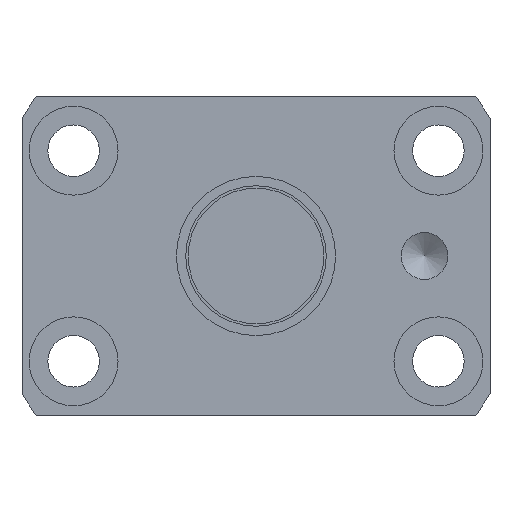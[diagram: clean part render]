
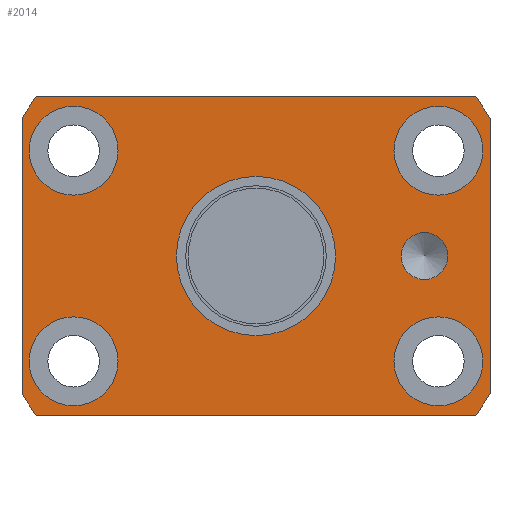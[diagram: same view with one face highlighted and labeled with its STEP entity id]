
A CAD part, left-side view. The second image highlights one B-rep face of the part: STEP entity #2014.
In plain terms, the highlighted planar face has unit normal (-1, 0, 0).
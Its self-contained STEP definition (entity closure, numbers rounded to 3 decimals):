
#40 = DIRECTION ( 'NONE',  ( 0., 0., 1. ) ) ;
#59 = DIRECTION ( 'NONE',  ( 0., 0., 1. ) ) ;
#60 = VERTEX_POINT ( 'NONE', #202 ) ;
#97 = LINE ( 'NONE', #3201, #497 ) ;
#127 = CARTESIAN_POINT ( 'NONE',  ( 0., 0., 0. ) ) ;
#133 = CARTESIAN_POINT ( 'NONE',  ( 0., -18., 2.5 ) ) ;
#143 = AXIS2_PLACEMENT_3D ( 'NONE', #592, #608, #2339 ) ;
#151 = VECTOR ( 'NONE', #2409, 1000. ) ;
#158 = FACE_OUTER_BOUND ( 'NONE', #1655, .T. ) ;
#162 = CARTESIAN_POINT ( 'NONE',  ( 0., 0., 0. ) ) ;
#197 = VERTEX_POINT ( 'NONE', #2906 ) ;
#202 = CARTESIAN_POINT ( 'NONE',  ( 0., 25., -14.697 ) ) ;
#208 = DIRECTION ( 'NONE',  ( -1., 0., 0. ) ) ;
#216 = DIRECTION ( 'NONE',  ( 1., 0., 0. ) ) ;
#221 = ORIENTED_EDGE ( 'NONE', *, *, #1532, .T. ) ;
#239 = DIRECTION ( 'NONE',  ( 0., 1., 0. ) ) ;
#242 = AXIS2_PLACEMENT_3D ( 'NONE', #2863, #595, #1051 ) ;
#282 = CARTESIAN_POINT ( 'NONE',  ( 0., -14.736, -11.25 ) ) ;
#292 = EDGE_CURVE ( 'NONE', #1288, #60, #2453, .T. ) ;
#304 = EDGE_CURVE ( 'NONE', #1771, #1771, #2123, .T. ) ;
#385 = CARTESIAN_POINT ( 'NONE',  ( 0., -25., -14.697 ) ) ;
#446 = AXIS2_PLACEMENT_3D ( 'NONE', #2274, #2562, #735 ) ;
#468 = DIRECTION ( 'NONE',  ( 1., 0., 0. ) ) ;
#489 = EDGE_LOOP ( 'NONE', ( #490 ) ) ;
#490 = ORIENTED_EDGE ( 'NONE', *, *, #2217, .F. ) ;
#494 = AXIS2_PLACEMENT_3D ( 'NONE', #3245, #216, #1177 ) ;
#497 = VECTOR ( 'NONE', #40, 1000. ) ;
#533 = CARTESIAN_POINT ( 'NONE',  ( 0., 23.495, 17. ) ) ;
#592 = CARTESIAN_POINT ( 'NONE',  ( 0., 19.486, 11.25 ) ) ;
#595 = DIRECTION ( 'NONE',  ( 1., 0., 0. ) ) ;
#608 = DIRECTION ( 'NONE',  ( 1., 0., 0. ) ) ;
#641 = DIRECTION ( 'NONE',  ( 0., 1., 0. ) ) ;
#647 = VERTEX_POINT ( 'NONE', #385 ) ;
#688 = FACE_BOUND ( 'NONE', #3200, .T. ) ;
#702 = CARTESIAN_POINT ( 'NONE',  ( 0., 0., 0. ) ) ;
#704 = FACE_BOUND ( 'NONE', #2756, .T. ) ;
#735 = DIRECTION ( 'NONE',  ( 0., 1., 0. ) ) ;
#797 = CARTESIAN_POINT ( 'NONE',  ( 0., 8.5, 0. ) ) ;
#798 = EDGE_CURVE ( 'NONE', #2342, #2342, #2061, .T. ) ;
#819 = LINE ( 'NONE', #2891, #2331 ) ;
#828 = CARTESIAN_POINT ( 'NONE',  ( 0., 25., 14.697 ) ) ;
#849 = ORIENTED_EDGE ( 'NONE', *, *, #798, .T. ) ;
#931 = AXIS2_PLACEMENT_3D ( 'NONE', #702, #468, #239 ) ;
#938 = ORIENTED_EDGE ( 'NONE', *, *, #2977, .F. ) ;
#941 = EDGE_CURVE ( 'NONE', #2644, #3183, #2931, .T. ) ;
#1031 = AXIS2_PLACEMENT_3D ( 'NONE', #1250, #3312, #2996 ) ;
#1033 = EDGE_CURVE ( 'NONE', #3070, #3070, #3212, .T. ) ;
#1051 = DIRECTION ( 'NONE',  ( 0., 1., 0. ) ) ;
#1065 = VERTEX_POINT ( 'NONE', #2304 ) ;
#1107 = DIRECTION ( 'NONE',  ( -1., 0., 0. ) ) ;
#1129 = DIRECTION ( 'NONE',  ( 1., 0., 0. ) ) ;
#1140 = CIRCLE ( 'NONE', #143, 4.75 ) ;
#1154 = EDGE_CURVE ( 'NONE', #3014, #647, #1784, .T. ) ;
#1177 = DIRECTION ( 'NONE',  ( 0., 1., 0. ) ) ;
#1215 = DIRECTION ( 'NONE',  ( 0., 0., 1. ) ) ;
#1244 = CIRCLE ( 'NONE', #3034, 2.5 ) ;
#1250 = CARTESIAN_POINT ( 'NONE',  ( 0., -19.486, 11.25 ) ) ;
#1272 = EDGE_LOOP ( 'NONE', ( #2800 ) ) ;
#1288 = VERTEX_POINT ( 'NONE', #3334 ) ;
#1321 = DIRECTION ( 'NONE',  ( 0., 1., 0. ) ) ;
#1337 = CARTESIAN_POINT ( 'NONE',  ( 0., -14.736, 11.25 ) ) ;
#1349 = ORIENTED_EDGE ( 'NONE', *, *, #3225, .F. ) ;
#1378 = CARTESIAN_POINT ( 'NONE',  ( 0., -25., 14.697 ) ) ;
#1418 = EDGE_LOOP ( 'NONE', ( #2077 ) ) ;
#1471 = DIRECTION ( 'NONE',  ( 1., 0., 0. ) ) ;
#1519 = CARTESIAN_POINT ( 'NONE',  ( 0., 24.236, -11.25 ) ) ;
#1532 = EDGE_CURVE ( 'NONE', #1065, #1065, #1140, .T. ) ;
#1535 = EDGE_CURVE ( 'NONE', #60, #2644, #97, .T. ) ;
#1553 = LINE ( 'NONE', #533, #151 ) ;
#1589 = ORIENTED_EDGE ( 'NONE', *, *, #941, .F. ) ;
#1655 = EDGE_LOOP ( 'NONE', ( #1763, #938, #2557, #1349, #2368, #1589, #1856, #1973 ) ) ;
#1671 = DIRECTION ( 'NONE',  ( 0., 1., 0. ) ) ;
#1689 = CIRCLE ( 'NONE', #931, 29. ) ;
#1743 = FACE_BOUND ( 'NONE', #1418, .T. ) ;
#1763 = ORIENTED_EDGE ( 'NONE', *, *, #2303, .F. ) ;
#1771 = VERTEX_POINT ( 'NONE', #282 ) ;
#1784 = LINE ( 'NONE', #2059, #3255 ) ;
#1856 = ORIENTED_EDGE ( 'NONE', *, *, #1535, .F. ) ;
#1869 = CARTESIAN_POINT ( 'NONE',  ( 0., -18., 0. ) ) ;
#1883 = VERTEX_POINT ( 'NONE', #1337 ) ;
#1903 = AXIS2_PLACEMENT_3D ( 'NONE', #2310, #1471, #3336 ) ;
#1928 = VERTEX_POINT ( 'NONE', #2238 ) ;
#1931 = VERTEX_POINT ( 'NONE', #133 ) ;
#1951 = FACE_BOUND ( 'NONE', #3248, .T. ) ;
#1952 = CIRCLE ( 'NONE', #242, 29. ) ;
#1973 = ORIENTED_EDGE ( 'NONE', *, *, #292, .F. ) ;
#2014 = ADVANCED_FACE ( 'NONE', ( #2459, #3268, #704, #1743, #1951, #158, #688 ), #2497, .T. ) ;
#2059 = CARTESIAN_POINT ( 'NONE',  ( 0., -25., 14.697 ) ) ;
#2061 = CIRCLE ( 'NONE', #2865, 8.5 ) ;
#2077 = ORIENTED_EDGE ( 'NONE', *, *, #304, .T. ) ;
#2123 = CIRCLE ( 'NONE', #446, 4.75 ) ;
#2177 = AXIS2_PLACEMENT_3D ( 'NONE', #127, #1129, #1671 ) ;
#2192 = CIRCLE ( 'NONE', #1031, 4.75 ) ;
#2217 = EDGE_CURVE ( 'NONE', #1931, #1931, #1244, .T. ) ;
#2238 = CARTESIAN_POINT ( 'NONE',  ( 0., -23.495, -17. ) ) ;
#2244 = ORIENTED_EDGE ( 'NONE', *, *, #3272, .T. ) ;
#2274 = CARTESIAN_POINT ( 'NONE',  ( 0., -19.486, -11.25 ) ) ;
#2303 = EDGE_CURVE ( 'NONE', #1928, #1288, #819, .T. ) ;
#2304 = CARTESIAN_POINT ( 'NONE',  ( 0., 24.236, 11.25 ) ) ;
#2310 = CARTESIAN_POINT ( 'NONE',  ( 0., 0., 0. ) ) ;
#2331 = VECTOR ( 'NONE', #1321, 1000. ) ;
#2339 = DIRECTION ( 'NONE',  ( 0., 1., 0. ) ) ;
#2342 = VERTEX_POINT ( 'NONE', #797 ) ;
#2368 = ORIENTED_EDGE ( 'NONE', *, *, #2960, .F. ) ;
#2409 = DIRECTION ( 'NONE',  ( 0., -1., 0. ) ) ;
#2448 = DIRECTION ( 'NONE',  ( 1., 0., 0. ) ) ;
#2452 = AXIS2_PLACEMENT_3D ( 'NONE', #2770, #208, #1215 ) ;
#2453 = CIRCLE ( 'NONE', #1903, 29. ) ;
#2459 = FACE_BOUND ( 'NONE', #489, .T. ) ;
#2497 = PLANE ( 'NONE',  #2452 ) ;
#2557 = ORIENTED_EDGE ( 'NONE', *, *, #1154, .F. ) ;
#2562 = DIRECTION ( 'NONE',  ( 1., 0., 0. ) ) ;
#2644 = VERTEX_POINT ( 'NONE', #828 ) ;
#2756 = EDGE_LOOP ( 'NONE', ( #2244 ) ) ;
#2770 = CARTESIAN_POINT ( 'NONE',  ( 0., 12.75, 0. ) ) ;
#2800 = ORIENTED_EDGE ( 'NONE', *, *, #1033, .T. ) ;
#2845 = CARTESIAN_POINT ( 'NONE',  ( 0., 23.495, 17. ) ) ;
#2863 = CARTESIAN_POINT ( 'NONE',  ( 0., 0., 0. ) ) ;
#2865 = AXIS2_PLACEMENT_3D ( 'NONE', #162, #2448, #641 ) ;
#2891 = CARTESIAN_POINT ( 'NONE',  ( 0., -23.495, -17. ) ) ;
#2906 = CARTESIAN_POINT ( 'NONE',  ( 0., -23.495, 17. ) ) ;
#2931 = CIRCLE ( 'NONE', #2177, 29. ) ;
#2960 = EDGE_CURVE ( 'NONE', #3183, #197, #1553, .T. ) ;
#2977 = EDGE_CURVE ( 'NONE', #647, #1928, #1952, .T. ) ;
#2996 = DIRECTION ( 'NONE',  ( 0., 1., 0. ) ) ;
#3014 = VERTEX_POINT ( 'NONE', #1378 ) ;
#3034 = AXIS2_PLACEMENT_3D ( 'NONE', #1869, #1107, #59 ) ;
#3066 = DIRECTION ( 'NONE',  ( 0., 0., -1. ) ) ;
#3070 = VERTEX_POINT ( 'NONE', #1519 ) ;
#3183 = VERTEX_POINT ( 'NONE', #2845 ) ;
#3200 = EDGE_LOOP ( 'NONE', ( #849 ) ) ;
#3201 = CARTESIAN_POINT ( 'NONE',  ( 0., 25., -14.697 ) ) ;
#3212 = CIRCLE ( 'NONE', #494, 4.75 ) ;
#3225 = EDGE_CURVE ( 'NONE', #197, #3014, #1689, .T. ) ;
#3245 = CARTESIAN_POINT ( 'NONE',  ( 0., 19.486, -11.25 ) ) ;
#3248 = EDGE_LOOP ( 'NONE', ( #221 ) ) ;
#3255 = VECTOR ( 'NONE', #3066, 1000. ) ;
#3268 = FACE_BOUND ( 'NONE', #1272, .T. ) ;
#3272 = EDGE_CURVE ( 'NONE', #1883, #1883, #2192, .T. ) ;
#3312 = DIRECTION ( 'NONE',  ( 1., 0., 0. ) ) ;
#3334 = CARTESIAN_POINT ( 'NONE',  ( 0., 23.495, -17. ) ) ;
#3336 = DIRECTION ( 'NONE',  ( 0., 1., 0. ) ) ;
